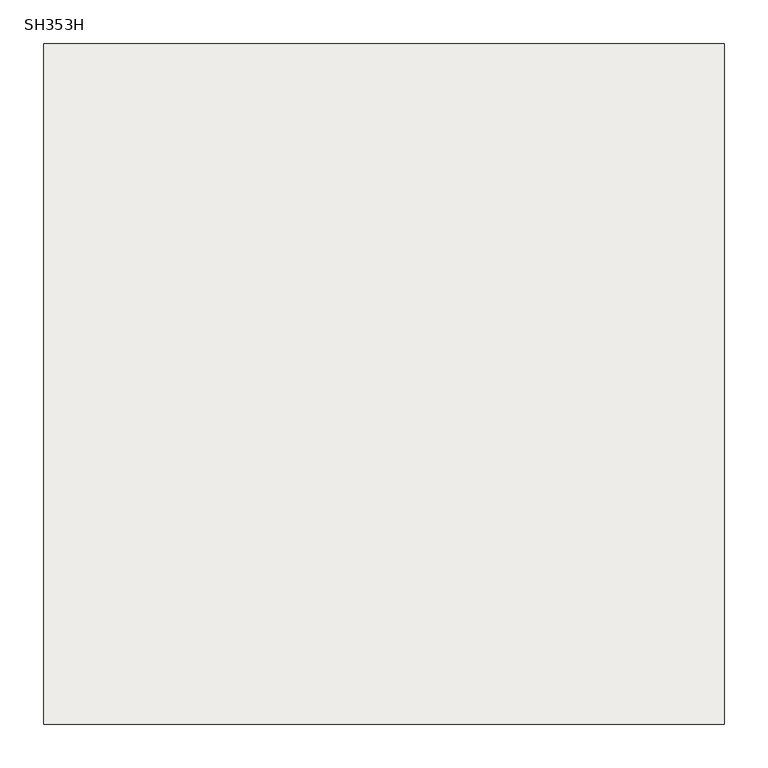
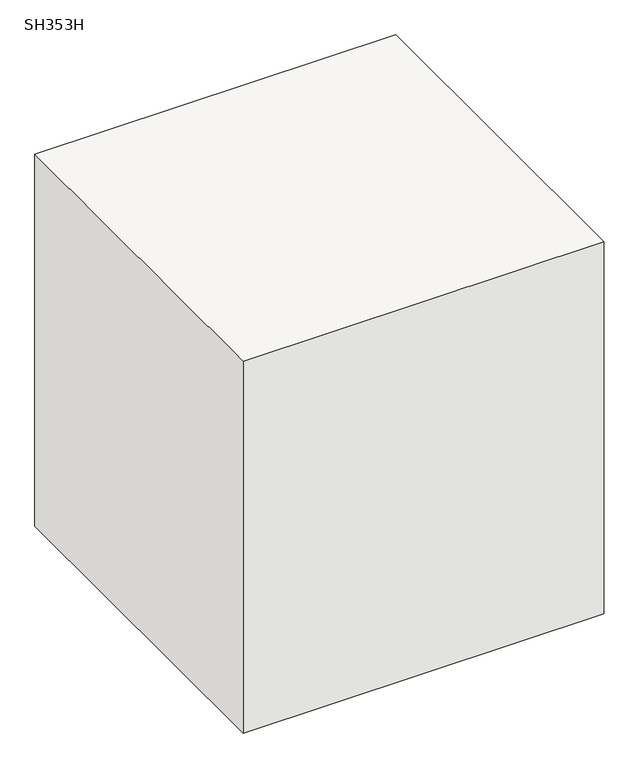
"""IFC4 building model written with IfcOpenShell, lengths in millimetres: slab geometry, 柱形_SH : SH353H."""

import ifcopenshell
import ifcopenshell.guid

model = None  # the IFC model being written
_history = None  # IfcOwnerHistory: only IFC2X3 demands one
_inside = {}  # id of a spatial element -> (the spatial element, [elements in it])
_under = {}  # id of a project, library or spatial element -> (it, [spatial elements below it])
_declared = {}  # id of a project -> (the project, [libraries it declares])
_typed = {}  # id of a type object -> (the type object, [elements of that type])
_made_of = {}  # id of a material, layer set ... -> (it, [elements and type objects made of it])


def new_model(schema):
    """Start an empty IFC model of exactly this schema.

    Asked for "IFC4X3", IfcOpenShell would pick the latest addendum, in which some entities
    have other attributes; the version numbers below select the first issue.
    IFC2X3 requires an IfcOwnerHistory on every rooted entity: one is made here for all.
    """
    global model, _history
    if schema == "IFC4X3":
        model = ifcopenshell.file(schema_version=(4, 3, 0, 0))
    else:
        model = ifcopenshell.file(schema=schema)
    _inside.clear()
    _under.clear()
    _declared.clear()
    _typed.clear()
    _made_of.clear()
    _history = None
    if model.schema == "IFC2X3":
        org = make("IfcOrganization", Name="unknown")
        user = make(
            "IfcPersonAndOrganization",
            ThePerson=make("IfcPerson", FamilyName="unknown"),
            TheOrganization=org,
        )
        app = make(
            "IfcApplication",
            ApplicationDeveloper=org,
            Version="unknown",
            ApplicationFullName="unknown",
            ApplicationIdentifier="unknown",
        )
        _history = make(
            "IfcOwnerHistory",
            OwningUser=user,
            OwningApplication=app,
            ChangeAction="ADDED",
            CreationDate=0,
        )
    return model


def make(cls, **values):
    """One entity of the class cls with the attributes given. An attribute that is None is left unset."""
    return model.create_entity(
        cls, **{name: value for name, value in values.items() if value is not None}
    )


def rooted(cls, **values):
    """An entity with a GlobalId (a new one), such as an element, a storey or a relation."""
    return make(cls, GlobalId=ifcopenshell.guid.new(), OwnerHistory=_history, **values)


def si_unit(unit_type, name, prefix=None):
    """IfcSIUnit, for example si_unit("LENGTHUNIT", "METRE", prefix="MILLI")."""
    return make("IfcSIUnit", UnitType=unit_type, Prefix=prefix, Name=name)


def assignment(units):
    """IfcUnitAssignment: the units of a project."""
    return None if units is None else make("IfcUnitAssignment", Units=units)


def point(xyz):
    """IfcCartesianPoint."""
    return None if xyz is None else make("IfcCartesianPoint", Coordinates=xyz)


def direction(xyz):
    """IfcDirection."""
    return None if xyz is None else make("IfcDirection", DirectionRatios=xyz)


def frame(location, z_axis=None, x_axis=None):
    """IfcAxis2Placement3D, a coordinate frame: its origin and axes. An axis left out is left unset."""
    return make(
        "IfcAxis2Placement3D",
        Location=point(location),
        Axis=direction(z_axis),
        RefDirection=direction(x_axis),
    )


def origin():
    """The frame at (0, 0, 0) with its axes left unset."""
    return frame((0.0, 0.0, 0.0))


def place(relative_to, where):
    """IfcLocalPlacement: puts the frame where relative to a parent placement (None: the world)."""
    return make(
        "IfcLocalPlacement", PlacementRelTo=relative_to, RelativePlacement=where
    )


def context(
    kind, dimensions, precision=None, world=None, true_north=None, identifier=None
):
    """IfcGeometricRepresentationContext, for example the 3D "Model" context."""
    return make(
        "IfcGeometricRepresentationContext",
        ContextIdentifier=identifier,
        ContextType=kind,
        CoordinateSpaceDimension=dimensions,
        Precision=precision,
        WorldCoordinateSystem=world,
        TrueNorth=true_north,
    )


def project(units=None, contexts=None):
    """IfcProject with its units and contexts."""
    return rooted(
        "IfcProject",
        Name="project",
        RepresentationContexts=contexts,
        UnitsInContext=assignment(units),
    )


def spatial(cls, under=None, at=None, **own):
    """A site, building, storey or space (cls), placed at a placement, below another one or the project."""
    s = rooted(cls, ObjectPlacement=at, **own)
    if under is not None:
        _under.setdefault(under.id(), (under, []))[1].append(s)
    return s


def polyline(points):
    """IfcPolyline through the points."""
    return make("IfcPolyline", Points=[point(p) for p in points])


def outline(outer, holes=None, kind="AREA"):
    """IfcArbitraryClosedProfileDef: a profile drawn as a closed curve; with holes, ...WithVoids."""
    if holes is None:
        return make("IfcArbitraryClosedProfileDef", ProfileType=kind, OuterCurve=outer)
    return make(
        "IfcArbitraryProfileDefWithVoids",
        ProfileType=kind,
        OuterCurve=outer,
        InnerCurves=holes,
    )


def extrude(swept, where, along, depth):
    """IfcExtrudedAreaSolid: the profile swept, set in the frame where, extruded along a direction by depth."""
    return make(
        "IfcExtrudedAreaSolid",
        SweptArea=swept,
        Position=where,
        ExtrudedDirection=direction(along),
        Depth=depth,
    )


def shape(context_of_items, identifier, shape_type, items):
    """IfcShapeRepresentation: the items that make up one representation, for example the "Body"."""
    return make(
        "IfcShapeRepresentation",
        ContextOfItems=context_of_items,
        RepresentationIdentifier=identifier,
        RepresentationType=shape_type,
        Items=items,
    )


def source(mapping_origin, context_of_items, identifier, shape_type, items):
    """IfcRepresentationMap: a shape defined once, which mapped items show again and again."""
    return make(
        "IfcRepresentationMap",
        MappingOrigin=mapping_origin,
        MappedRepresentation=shape(context_of_items, identifier, shape_type, items),
    )


def transform(
    local_origin,
    x_axis=None,
    y_axis=None,
    z_axis=None,
    scale=None,
    scale2=None,
    scale3=None,
    uniform=True,
):
    """IfcCartesianTransformationOperator3D, or its non-uniform kind. x_axis, y_axis, z_axis: its Axis1, 2, 3."""
    if uniform:
        return make(
            "IfcCartesianTransformationOperator3D",
            Axis1=direction(x_axis),
            Axis2=direction(y_axis),
            LocalOrigin=point(local_origin),
            Scale=scale,
            Axis3=direction(z_axis),
        )
    return make(
        "IfcCartesianTransformationOperator3DnonUniform",
        Axis1=direction(x_axis),
        Axis2=direction(y_axis),
        LocalOrigin=point(local_origin),
        Scale=scale,
        Axis3=direction(z_axis),
        Scale2=scale2,
        Scale3=scale3,
    )


def mapped(mapping_source, mapping_target):
    """IfcMappedItem: shows the shape of a source again, moved by a transform."""
    return make(
        "IfcMappedItem", MappingSource=mapping_source, MappingTarget=mapping_target
    )


def made_of(thing, what):
    """Note that an element or type object is made of a material, layer set ...; save() writes the relation."""
    if what is not None:
        _made_of.setdefault(what.id(), (what, []))[1].append(thing)
    return thing


def element(
    cls,
    number,
    at=None,
    inside=None,
    cuts=None,
    type_object=None,
    material=None,
    context=None,
    identifier="Body",
    shape_type=None,
    held_by="IfcProductDefinitionShape",
    body=None,
    shapes=None,
    **own,
):
    """One element of the class cls, such as IfcWall. Its Tag is "e" and its number.

    at: its placement. inside: the storey or other place that contains it. cuts: it is an
    opening in that element (IfcRelVoidsElement). A single representation is given by context,
    identifier, shape_type and body (its items); several are given by shapes. held_by: the class
    of the entity that holds the representations. save() writes the other relations.
    """
    e = rooted(cls, Tag="e%d" % number, ObjectPlacement=at, **own)
    if body is not None:
        shapes = [shape(context, identifier, shape_type, body)]
    if shapes is not None:
        e.Representation = make(held_by, Representations=shapes)
    if inside is not None:
        _inside.setdefault(inside.id(), (inside, []))[1].append(e)
    if cuts is not None:
        rooted(
            "IfcRelVoidsElement", RelatingBuildingElement=cuts, RelatedOpeningElement=e
        )
    if type_object is not None:
        _typed.setdefault(type_object.id(), (type_object, []))[1].append(e)
    return made_of(e, material)


def aggregate(whole, parts):
    """IfcRelAggregates: a whole, such as a stair, and the parts it consists of."""
    return rooted("IfcRelAggregates", RelatingObject=whole, RelatedObjects=parts)


def save(model, path):
    """Write the relations noted so far, then the file.

    IfcRelAggregates (storeys below a building ...), IfcRelContainedInSpatialStructure (elements
    in a storey), IfcRelDefinesByType, IfcRelAssociatesMaterial and IfcRelDeclares: one each for
    every whole, place, type object, material and project.
    """
    for whole, parts in _under.values():
        aggregate(whole, parts)
    for where, things in _inside.values():
        rooted(
            "IfcRelContainedInSpatialStructure",
            RelatedElements=things,
            RelatingStructure=where,
        )
    for kind, things in _typed.values():
        rooted("IfcRelDefinesByType", RelatedObjects=things, RelatingType=kind)
    for what, things in _made_of.values():
        rooted("IfcRelAssociatesMaterial", RelatedObjects=things, RelatingMaterial=what)
    for by, libraries in _declared.values():
        rooted("IfcRelDeclares", RelatingContext=by, RelatedDefinitions=libraries)
    model.write(path)


def sh353h_d71c6902(model_context):
    return source(origin(), model_context, "Body", "SweptSolid", [
        extrude(outline(polyline([(390.0, 390.0), (390.0, -390.0), (-390.0, -390.0), (-390.0, 390.0), (390.0, 390.0)])), frame((0.0, 0.0, -850.0), z_axis=(0.0, 0.0, 1.0), x_axis=(1.0, 0.0, 0.0)), (0.0, 0.0, 1.0), 850.0),
    ])


if __name__ == "__main__":
    model = new_model("IFC4")
    model_context = context("Model", 3, world=origin())
    ifc_project = project(units=[si_unit("LENGTHUNIT", "METRE", prefix="MILLI")], contexts=[model_context])
    site = spatial("IfcSite", under=ifc_project)
    building = spatial("IfcBuilding", under=site)
    placement = place(None, origin())
    sh353h_shape = sh353h_d71c6902(model_context)
    element("IfcSlab", 1, ObjectType="柱形_SH : SH353H", at=placement, inside=building, context=model_context, shape_type="MappedRepresentation", body=[
        mapped(sh353h_shape, transform((0.0, 0.0, 0.0), x_axis=(1.0, 0.0, 0.0), y_axis=(0.0, 1.0, 0.0), z_axis=(0.0, 0.0, 1.0))),
    ])
    save(model, "model.ifc")
